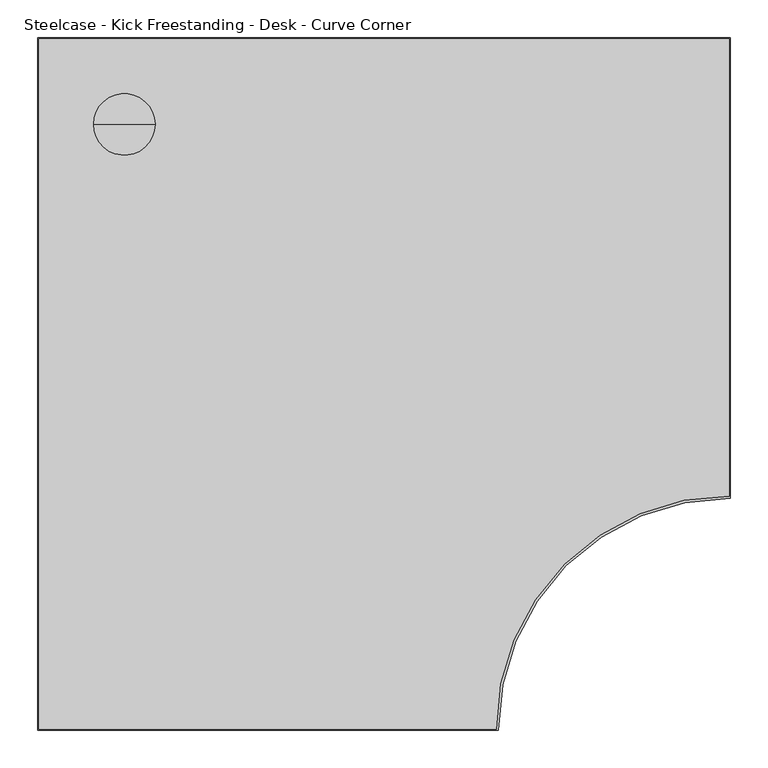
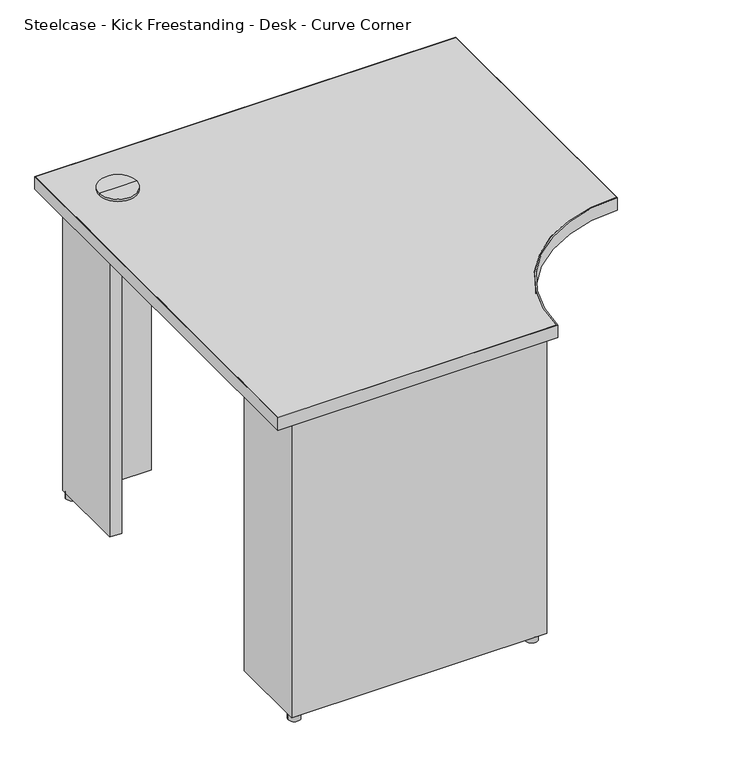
"""IFC4 building model written with IfcOpenShell, lengths in millimetres: furniture geometry, Steelcase - Kick Freestanding - Desk - Curve Corner : 24D x 36W - Left Full End Panel/Right Clear Access Support - LPL."""

from ifc_helpers import new_model, si_unit, point, frame, frame_2d, origin, origin_with_axes, place, context, project, spatial, polyline, circle_curve, trimmed, segment, composite_curve, outline, extrude, source, transform, mapped, element, save
from ifc_brep_helpers import plane_surface, cylinder_surface, advanced_brep


def steelcase_kick_freestanding_desk_curve_corner_a895c9e4(model_context):
    return source(origin(), model_context, "Body", "SolidModel", [
        extrude(outline(composite_curve([segment(trimmed(circle_curve(frame_2d((566.7971133, -887.4759893)), 12.7), [point((554.0971133, -887.4759893))], [point((579.4971133, -887.4759893))], False, "CARTESIAN"), True, "CONTINUOUS"), segment(trimmed(circle_curve(frame_2d((566.7971133, -887.4759893)), 12.7), [point((579.4971133, -887.4759893))], [point((554.0971133, -887.4759893))], False, "CARTESIAN"), True, "CONTINUOUS")], self_intersect=False)), origin_with_axes(), (0.0, 0.0, 1.0), 12.446),
        extrude(outline(polyline([(721.6393822, -63.5), (721.6393822, -38.1), (899.4393579, -38.1), (899.4393579, -215.8999939), (873.5313463, -215.8999939), (873.5313463, -63.5), (721.6393822, -63.5)])), frame((0.0, 0.0, 12.446), z_axis=(0.0, 0.0, 1.0), x_axis=(1.0, 0.0, 0.0)), (0.0, 0.0, 1.0), 682.498),
        extrude(outline(polyline([(215.8999939, -63.5), (63.5, -63.5), (63.5, -215.8999939), (38.1, -215.8999939), (38.1, -38.1), (215.8999939, -38.1), (215.8999939, -63.5)])), frame((0.0, 0.0, 12.446), z_axis=(0.0, 0.0, 1.0), x_axis=(1.0, 0.0, 0.0)), (0.0, 0.0, 1.0), 682.498),
        extrude(outline(polyline([(63.5, -722.6300194), (63.5, -875.0300194), (161.3662, -875.0300194), (161.3662, -894.6895822), (261.0866, -894.6895822), (261.0866, -875.0300194), (369.824, -875.0300194), (369.824, -894.6895822), (469.5444, -894.6895822), (469.5444, -875.0300194), (592.582, -875.0300194), (592.582, -900.4299952), (38.1, -900.4299952), (38.1, -722.6300194), (63.5, -722.6300194)])), frame((0.0, 0.0, 12.446), z_axis=(0.0, 0.0, 1.0), x_axis=(1.0, 0.0, 0.0)), (0.0, 0.0, 1.0), 682.498),
        advanced_brep(
        [(114.3, -114.3, 728.98), (154.94, -114.3, 728.98), (73.66, -114.3, 728.98), (76.1699693, -114.3, 694.944), (152.4300307, -114.3, 694.944), (114.3, -114.3, 694.944), (76.1699693, -114.3, 723.9), (152.4300307, -114.3, 723.9), (73.66, -114.3, 723.9), (154.94, -114.3, 723.9)],
        [
            (0, 1),
            (1, 2, circle_curve(frame((114.3, -114.3, 728.98), z_axis=(0.0, 0.0, 1.0), x_axis=(1.0, 0.0, 0.0)), 40.64)),
            (2, 0),
            (2, 1, circle_curve(frame((114.3, -114.3, 728.98), z_axis=(0.0, 0.0, 1.0), x_axis=(1.0, 0.0, 0.0)), 40.64)),
            (3, 4, circle_curve(frame((114.3, -114.3, 694.944), z_axis=(0.0, 0.0, -1.0), x_axis=(1.0, 0.0, 0.0)), 38.1300307)),
            (4, 5),
            (5, 3),
            (4, 3, circle_curve(frame((114.3, -114.3, 694.944), z_axis=(0.0, 0.0, -1.0), x_axis=(1.0, 0.0, 0.0)), 38.1300307)),
            (6, 7, circle_curve(frame((114.3, -114.3, 723.9), z_axis=(0.0, 0.0, -1.0), x_axis=(1.0, 0.0, 0.0)), 38.1300307)),
            (7, 4),
            (3, 6),
            (7, 6, circle_curve(frame((114.3, -114.3, 723.9), z_axis=(0.0, 0.0, -1.0), x_axis=(1.0, 0.0, 0.0)), 38.1300307)),
            (8, 9, circle_curve(frame((114.3, -114.3, 723.9), z_axis=(0.0, 0.0, -1.0), x_axis=(1.0, 0.0, 0.0)), 40.64)),
            (9, 7),
            (6, 8),
            (9, 8, circle_curve(frame((114.3, -114.3, 723.9), z_axis=(0.0, 0.0, -1.0), x_axis=(1.0, 0.0, 0.0)), 40.64)),
            (1, 9),
            (8, 2),
        ],
        [
            plane_surface(frame((114.3, -114.3, 728.98), z_axis=(0.0, 0.0, 1.0), x_axis=(1.0, 0.0, 0.0))),
            plane_surface(frame((114.3, -114.3, 694.944), z_axis=(0.0, 0.0, -1.0), x_axis=(1.0, 0.0, 0.0))),
            cylinder_surface(frame((114.3, -114.3, 728.98), z_axis=(0.0, 0.0, 1.0), x_axis=(1.0, 0.0, 0.0)), 38.1300307),
            plane_surface(frame((114.3, -114.3, 723.9), z_axis=(0.0, 0.0, -1.0), x_axis=(1.0, 0.0, 0.0))),
            cylinder_surface(frame((114.3, -114.3, 728.98), z_axis=(0.0, 0.0, 1.0), x_axis=(1.0, 0.0, 0.0)), 40.64),
        ],
        [
            (0, [[1, 2, 3]]),
            (0, [[-3, 4, -1]]),
            (1, [[5, 6, 7]]),
            (1, [[8, -7, -6]]),
            (2, [[9, 10, -5, 11]]),
            (2, [[12, -11, -8, -10]]),
            (3, [[13, 14, -9, 15]]),
            (3, [[16, -15, -12, -14]]),
            (4, [[-2, 17, -13, 18]]),
            (4, [[-4, -18, -16, -17]]),
        ],
    ),
        extrude(outline(composite_curve([segment(trimmed(circle_curve(frame_2d((50.8, -50.8)), 12.7), [point((38.1, -50.8))], [point((63.5, -50.8))], False, "CARTESIAN"), True, "CONTINUOUS"), segment(trimmed(circle_curve(frame_2d((50.8, -50.8)), 12.7), [point((63.5, -50.8))], [point((38.1, -50.8))], False, "CARTESIAN"), True, "CONTINUOUS")], self_intersect=False)), origin_with_axes(), (0.0, 0.0, 1.0), 12.446),
        extrude(outline(composite_curve([segment(trimmed(circle_curve(frame_2d((50.8, -887.7300073)), 12.7484998), [point((38.0515002, -887.7300073))], [point((63.5484998, -887.7300073))], False, "CARTESIAN"), True, "CONTINUOUS"), segment(trimmed(circle_curve(frame_2d((50.8, -887.7300073)), 12.7484998), [point((63.5484998, -887.7300073))], [point((38.0515002, -887.7300073))], False, "CARTESIAN"), True, "CONTINUOUS")], self_intersect=False)), origin_with_axes(), (0.0, 0.0, 1.0), 12.446),
        extrude(outline(composite_curve([segment(trimmed(circle_curve(frame_2d((886.4853521, -50.8)), 12.7), [point((873.7853521, -50.8))], [point((899.1853521, -50.8))], False, "CARTESIAN"), True, "CONTINUOUS"), segment(trimmed(circle_curve(frame_2d((886.4853521, -50.8)), 12.7), [point((899.1853521, -50.8))], [point((873.7853521, -50.8))], False, "CARTESIAN"), True, "CONTINUOUS")], self_intersect=False)), origin_with_axes(), (0.0, 0.0, 1.0), 12.446),
        extrude(outline(composite_curve([segment(polyline([(0.9906, -913.4093628), (0.9906, -0.9906), (913.4093628, -0.9906), (913.4093628, -605.3354109)]), True, "CONTINUOUS"), segment(trimmed(circle_curve(frame_2d((912.1393458, -912.1393458)), 306.8065636), [point((913.4093628, -605.3354109))], [point((605.3354109, -913.4093628))], True, "CARTESIAN"), True, "CONTINUOUS"), segment(polyline([(605.3354109, -913.4093628), (0.9906, -913.4093628)]), True, "CONTINUOUS")], self_intersect=False)), frame((0.0, 0.0, 694.944), z_axis=(0.0, 0.0, 1.0), x_axis=(1.0, 0.0, 0.0)), (0.0, 0.0, 1.0), 28.956),
        extrude(outline(composite_curve([segment(polyline([(914.4, 0.0), (914.4, -608.332629)]), True, "CONTINUOUS"), segment(trimmed(circle_curve(frame_2d((913.129983, -913.129983)), 304.8), [point((914.4, -608.332629))], [point((608.332629, -914.4))], True, "CARTESIAN"), True, "CONTINUOUS"), segment(polyline([(608.332629, -914.4), (0.0, -914.4), (0.0, 0.0), (914.4, 0.0)]), True, "CONTINUOUS")], self_intersect=False), holes=[composite_curve([segment(polyline([(913.4093628, -0.9906), (0.9906, -0.9906), (0.9906, -913.4093628), (605.3354109, -913.4093628)]), True, "CONTINUOUS"), segment(trimmed(circle_curve(frame_2d((912.1393458, -912.1393458)), 306.8065636), [point((605.3354109, -913.4093628))], [point((913.4093628, -605.3354109))], False, "CARTESIAN"), True, "CONTINUOUS"), segment(polyline([(913.4093628, -605.3354109), (913.4093628, -0.9906)]), True, "CONTINUOUS")], self_intersect=False)]), frame((0.0, 0.0, 694.944), z_axis=(0.0, 0.0, 1.0), x_axis=(1.0, 0.0, 0.0)), (0.0, 0.0, 1.0), 28.956),
    ])


if __name__ == "__main__":
    model = new_model("IFC4")
    model_context = context("Model", 3, world=origin())
    ifc_project = project(units=[si_unit("LENGTHUNIT", "METRE", prefix="MILLI")], contexts=[model_context])
    site = spatial("IfcSite", under=ifc_project)
    building = spatial("IfcBuilding", under=site)
    placement = place(None, origin())
    steelcase_kick_freestanding_desk_curve_corner_shape = steelcase_kick_freestanding_desk_curve_corner_a895c9e4(model_context)
    element("IfcFurniture", 1, ObjectType="Steelcase - Kick Freestanding - Desk - Curve Corner : 24D x 36W - Left Full End Panel/Right Clear Access Support - LPL", at=placement, inside=building, context=model_context, shape_type="MappedRepresentation", body=[
        mapped(steelcase_kick_freestanding_desk_curve_corner_shape, transform((0.0, 0.0, 0.0), x_axis=(1.0, 0.0, 0.0), y_axis=(0.0, 1.0, 0.0), z_axis=(0.0, 0.0, 1.0))),
    ])
    save(model, "model.ifc")
